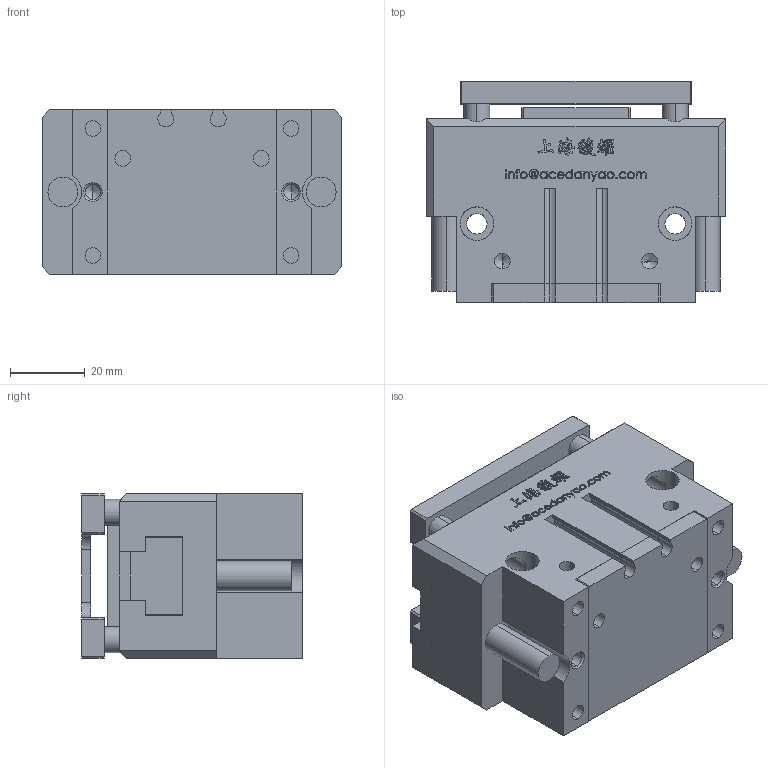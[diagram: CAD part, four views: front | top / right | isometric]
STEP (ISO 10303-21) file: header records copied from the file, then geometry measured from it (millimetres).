
FILE_DESCRIPTION (( 'STEP AP203' ), '1' );
FILE_NAME ('OPP2-80-C2-P-原始檔-組合-W106.04.19.STEP', '2017-04-19T01:14:12', ( 'DanyaoCAD' ), ( '' ), 'SwSTEP 2.0', 'SolidWorks 2016', '' );
FILE_SCHEMA (( 'CONFIG_CONTROL_DESIGN' ));
Length unit declared in the file: millimetre
Products named in the file (6): Piattello; Griffa; Fondello; Coperchio; Corpo; OPP2-80-C2-P-原始檔-組合-W106.04.19
Assembly tree (6 placements, depth 2):
  OPP2-80-C2-P-原始檔-組合-W106.04.19
    Piattello
    Griffa  x2
    Fondello
    Coperchio
    Corpo
Bounding box: 80 x 59 x 44 mm (x, y, z)
Volume: 150823 mm3; surface area: 50445.7 mm2
Topology: 6 solids, 6 shells, 1100 faces, 3066 edges, 2022 vertices
Faces by surface type: bspline 640, plane 300, cylinder 114, cone 46
Entity records: 51603 total; most frequent: CARTESIAN_POINT 27752, ORIENTED_EDGE 5938, EDGE_CURVE 2969, DIRECTION 2781, VERTEX_POINT 1972, VECTOR 1419, LINE 1419, B_SPLINE_CURVE_WITH_KNOTS 1302
